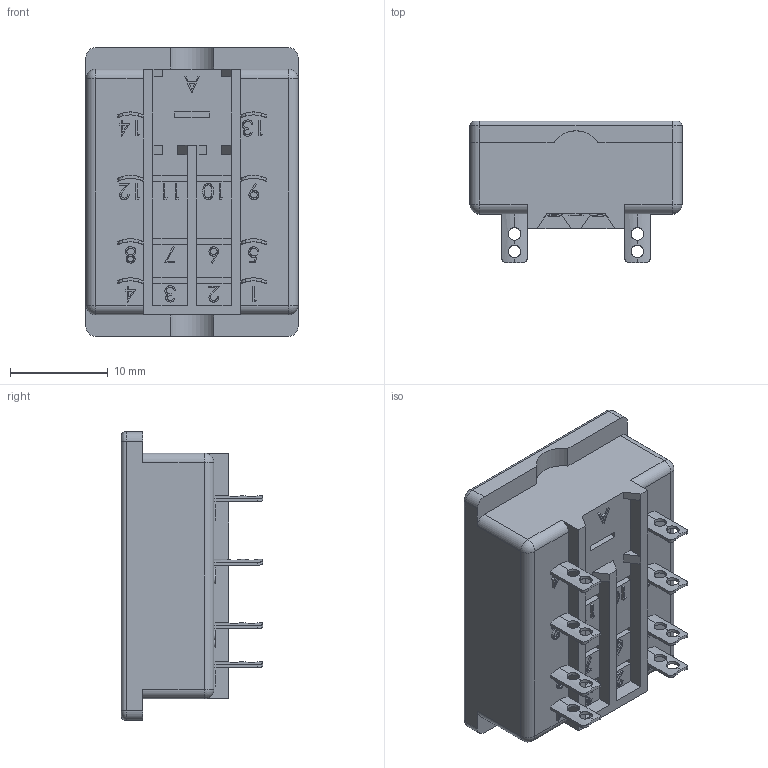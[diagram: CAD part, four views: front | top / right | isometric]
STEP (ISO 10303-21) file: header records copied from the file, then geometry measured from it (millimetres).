
FILE_DESCRIPTION (( 'STEP AP203' ), '1' );
FILE_NAME ('MSO2T.STEP', '2019-09-12T16:56:47', ( '' ), ( '' ), 'SwSTEP 2.0', 'SolidWorks 2012', '' );
FILE_SCHEMA (( 'CONFIG_CONTROL_DESIGN' ));
Length unit declared in the file: millimetre
Products named in the file (1): MSO2T
Bounding box: 21.75 x 14.5 x 29.6 mm (x, y, z)
Volume: 4992.4 mm3; surface area: 3265.1 mm2
Topology: 1 solids, 1 shells, 525 faces, 1493 edges, 978 vertices
Faces by surface type: plane 323, cylinder 102, bspline 92, sphere 4, torus 4
Entity records: 22664 total; most frequent: CARTESIAN_POINT 9757, ORIENTED_EDGE 2978, DIRECTION 2125, EDGE_CURVE 1489, LINE 1033, VECTOR 1033, VERTEX_POINT 978, EDGE_LOOP 569
